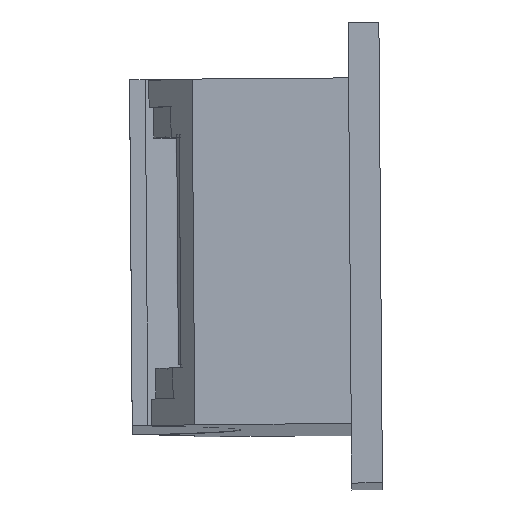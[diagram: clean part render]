
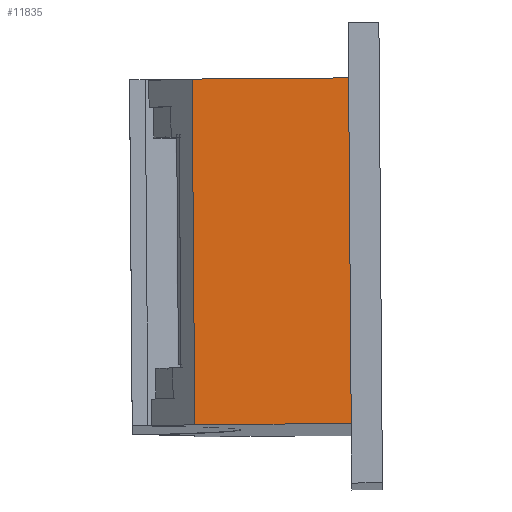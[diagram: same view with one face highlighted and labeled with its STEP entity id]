
A CAD part, left-side view. The second image highlights one B-rep face of the part: STEP entity #11835.
In plain terms, the highlighted planar face has unit normal (-1, 0, 0.023) as drawn and (-1, 0, 0) by its records, which use the part's own axes.
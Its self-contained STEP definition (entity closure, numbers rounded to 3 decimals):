
#626 = VERTEX_POINT ( 'NONE', #7609 ) ;
#1620 = VECTOR ( 'NONE', #15835, 1000. ) ;
#2311 = EDGE_CURVE ( 'NONE', #19304, #626, #12387, .T. ) ;
#2712 = CARTESIAN_POINT ( 'NONE',  ( -62.469, 0., -5. ) ) ;
#3374 = DIRECTION ( 'NONE',  ( 0., 1., 0. ) ) ;
#5024 = ORIENTED_EDGE ( 'NONE', *, *, #6297, .F. ) ;
#5066 = VERTEX_POINT ( 'NONE', #14772 ) ;
#6297 = EDGE_CURVE ( 'NONE', #5066, #20269, #17904, .T. ) ;
#7609 = CARTESIAN_POINT ( 'NONE',  ( -62.469, -55.256, 85. ) ) ;
#8068 = LINE ( 'NONE', #15957, #1620 ) ;
#8503 = LINE ( 'NONE', #2712, #24051 ) ;
#9277 = DIRECTION ( 'NONE',  ( 1., 0., 0. ) ) ;
#9850 = FACE_OUTER_BOUND ( 'NONE', #11598, .T. ) ;
#11598 = EDGE_LOOP ( 'NONE', ( #20937, #5024, #19047, #24047 ) ) ;
#11688 = AXIS2_PLACEMENT_3D ( 'NONE', #24470, #9277, #3374 ) ;
#11817 = CARTESIAN_POINT ( 'NONE',  ( -62.469, -95.986, -5. ) ) ;
#11835 = ADVANCED_FACE ( 'NONE', ( #9850 ), #22688, .F. ) ;
#12387 = LINE ( 'NONE', #20018, #16808 ) ;
#12427 = CARTESIAN_POINT ( 'NONE',  ( -62.469, -55.256, -5. ) ) ;
#13902 = DIRECTION ( 'NONE',  ( 0., 0., -1. ) ) ;
#14137 = DIRECTION ( 'NONE',  ( 0., 1., 0. ) ) ;
#14772 = CARTESIAN_POINT ( 'NONE',  ( -62.469, -95.986, 85. ) ) ;
#15835 = DIRECTION ( 'NONE',  ( 0., -1., 0. ) ) ;
#15957 = CARTESIAN_POINT ( 'NONE',  ( -62.469, -55.256, 85. ) ) ;
#16355 = VECTOR ( 'NONE', #13902, 1000. ) ;
#16808 = VECTOR ( 'NONE', #18259, 1000. ) ;
#17904 = LINE ( 'NONE', #23581, #16355 ) ;
#18067 = EDGE_CURVE ( 'NONE', #20269, #19304, #8503, .T. ) ;
#18259 = DIRECTION ( 'NONE',  ( 0., 0., 1. ) ) ;
#18798 = EDGE_CURVE ( 'NONE', #626, #5066, #8068, .T. ) ;
#19047 = ORIENTED_EDGE ( 'NONE', *, *, #18798, .F. ) ;
#19304 = VERTEX_POINT ( 'NONE', #12427 ) ;
#20018 = CARTESIAN_POINT ( 'NONE',  ( -62.469, -55.256, 80. ) ) ;
#20269 = VERTEX_POINT ( 'NONE', #11817 ) ;
#20937 = ORIENTED_EDGE ( 'NONE', *, *, #18067, .F. ) ;
#22688 = PLANE ( 'NONE',  #11688 ) ;
#23581 = CARTESIAN_POINT ( 'NONE',  ( -62.469, -95.986, 72.5 ) ) ;
#24047 = ORIENTED_EDGE ( 'NONE', *, *, #2311, .F. ) ;
#24051 = VECTOR ( 'NONE', #14137, 1000. ) ;
#24470 = CARTESIAN_POINT ( 'NONE',  ( -62.469, -55.256, 80. ) ) ;
